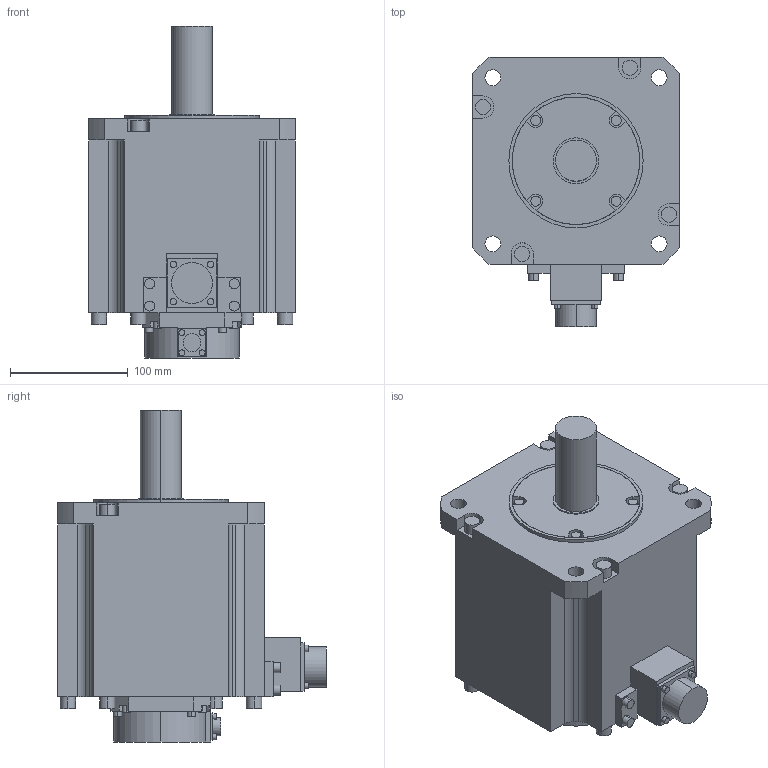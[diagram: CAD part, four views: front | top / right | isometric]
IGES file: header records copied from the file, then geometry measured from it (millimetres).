
Start section: SolidWorks IGES file using analytic representation for surfaces
Global section: file name: C:\work\hf-sp502_a.igs; native system: SolidWorks 2006 by SolidWorks Corporation; preprocessor: SolidWorks 2006 by SolidWorks Corporation; author: user; date: 091204.131441; units: millimetre
Bounding box: 176 x 228.85 x 282.5 mm (x, y, z)
Volume: 4989168.6 mm3; surface area: 212932.9 mm2
Topology: 1 solids, 1 shells, 247 faces, 613 edges, 408 vertices
Faces by surface type: plane 127, revolution 120
